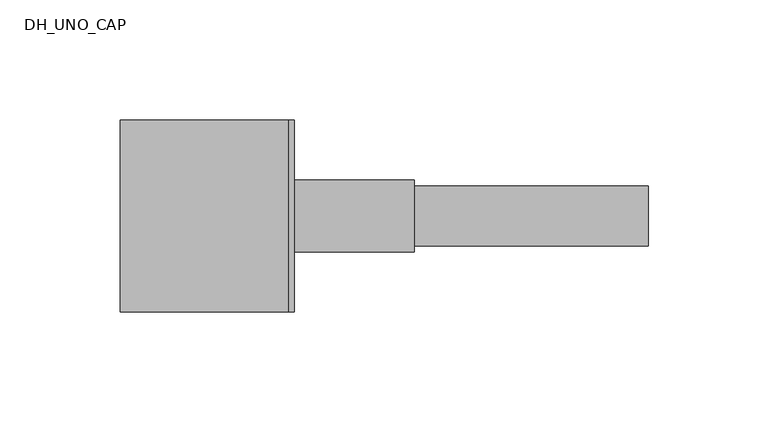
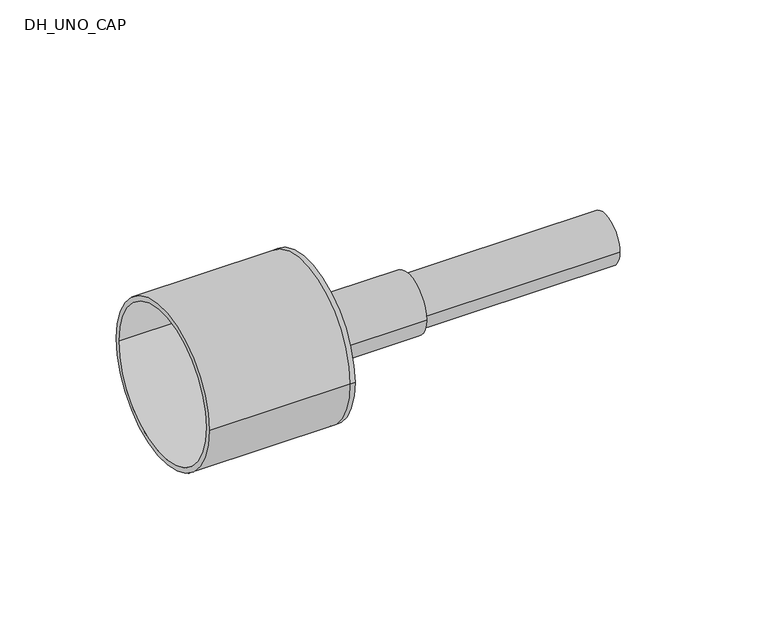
"""IFC4 building model written with IfcOpenShell, lengths in millimetres: pipe fitting geometry, DH_UNO_CAP : INSULPEX UNO 7.4 DW - Rubber Cap."""

import ifcopenshell
import ifcopenshell.guid

model = None  # the IFC model being written
_history = None  # IfcOwnerHistory: only IFC2X3 demands one
_inside = {}  # id of a spatial element -> (the spatial element, [elements in it])
_under = {}  # id of a project, library or spatial element -> (it, [spatial elements below it])
_declared = {}  # id of a project -> (the project, [libraries it declares])
_typed = {}  # id of a type object -> (the type object, [elements of that type])
_made_of = {}  # id of a material, layer set ... -> (it, [elements and type objects made of it])


def new_model(schema):
    """Start an empty IFC model of exactly this schema.

    Asked for "IFC4X3", IfcOpenShell would pick the latest addendum, in which some entities
    have other attributes; the version numbers below select the first issue.
    IFC2X3 requires an IfcOwnerHistory on every rooted entity: one is made here for all.
    """
    global model, _history
    if schema == "IFC4X3":
        model = ifcopenshell.file(schema_version=(4, 3, 0, 0))
    else:
        model = ifcopenshell.file(schema=schema)
    _inside.clear()
    _under.clear()
    _declared.clear()
    _typed.clear()
    _made_of.clear()
    _history = None
    if model.schema == "IFC2X3":
        org = make("IfcOrganization", Name="unknown")
        user = make(
            "IfcPersonAndOrganization",
            ThePerson=make("IfcPerson", FamilyName="unknown"),
            TheOrganization=org,
        )
        app = make(
            "IfcApplication",
            ApplicationDeveloper=org,
            Version="unknown",
            ApplicationFullName="unknown",
            ApplicationIdentifier="unknown",
        )
        _history = make(
            "IfcOwnerHistory",
            OwningUser=user,
            OwningApplication=app,
            ChangeAction="ADDED",
            CreationDate=0,
        )
    return model


def make(cls, **values):
    """One entity of the class cls with the attributes given. An attribute that is None is left unset."""
    return model.create_entity(
        cls, **{name: value for name, value in values.items() if value is not None}
    )


def rooted(cls, **values):
    """An entity with a GlobalId (a new one), such as an element, a storey or a relation."""
    return make(cls, GlobalId=ifcopenshell.guid.new(), OwnerHistory=_history, **values)


def si_unit(unit_type, name, prefix=None):
    """IfcSIUnit, for example si_unit("LENGTHUNIT", "METRE", prefix="MILLI")."""
    return make("IfcSIUnit", UnitType=unit_type, Prefix=prefix, Name=name)


def assignment(units):
    """IfcUnitAssignment: the units of a project."""
    return None if units is None else make("IfcUnitAssignment", Units=units)


def point(xyz):
    """IfcCartesianPoint."""
    return None if xyz is None else make("IfcCartesianPoint", Coordinates=xyz)


def direction(xyz):
    """IfcDirection."""
    return None if xyz is None else make("IfcDirection", DirectionRatios=xyz)


def frame(location, z_axis=None, x_axis=None):
    """IfcAxis2Placement3D, a coordinate frame: its origin and axes. An axis left out is left unset."""
    return make(
        "IfcAxis2Placement3D",
        Location=point(location),
        Axis=direction(z_axis),
        RefDirection=direction(x_axis),
    )


def frame_2d(location, x_axis=None):
    """IfcAxis2Placement2D, a coordinate frame in the plane: its origin and x axis."""
    return make(
        "IfcAxis2Placement2D", Location=point(location), RefDirection=direction(x_axis)
    )


def origin():
    """The frame at (0, 0, 0) with its axes left unset."""
    return frame((0.0, 0.0, 0.0))


def origin_2d():
    """The frame at (0, 0) in the plane with its x axis left unset."""
    return frame_2d((0.0, 0.0))


def place(relative_to, where):
    """IfcLocalPlacement: puts the frame where relative to a parent placement (None: the world)."""
    return make(
        "IfcLocalPlacement", PlacementRelTo=relative_to, RelativePlacement=where
    )


def context(
    kind, dimensions, precision=None, world=None, true_north=None, identifier=None
):
    """IfcGeometricRepresentationContext, for example the 3D "Model" context."""
    return make(
        "IfcGeometricRepresentationContext",
        ContextIdentifier=identifier,
        ContextType=kind,
        CoordinateSpaceDimension=dimensions,
        Precision=precision,
        WorldCoordinateSystem=world,
        TrueNorth=true_north,
    )


def project(units=None, contexts=None):
    """IfcProject with its units and contexts."""
    return rooted(
        "IfcProject",
        Name="project",
        RepresentationContexts=contexts,
        UnitsInContext=assignment(units),
    )


def spatial(cls, under=None, at=None, **own):
    """A site, building, storey or space (cls), placed at a placement, below another one or the project."""
    s = rooted(cls, ObjectPlacement=at, **own)
    if under is not None:
        _under.setdefault(under.id(), (under, []))[1].append(s)
    return s


def polyline(points):
    """IfcPolyline through the points."""
    return make("IfcPolyline", Points=[point(p) for p in points])


def circle_curve(where, radius):
    """IfcCircle in the frame where."""
    return make("IfcCircle", Position=where, Radius=radius)


def trimmed(basis, trim1, trim2, sense, master):
    """IfcTrimmedCurve: the piece of a basis curve between two trims."""
    return make(
        "IfcTrimmedCurve",
        BasisCurve=basis,
        Trim1=trim1,
        Trim2=trim2,
        SenseAgreement=sense,
        MasterRepresentation=master,
    )


def segment(curve, same_sense, transition):
    """IfcCompositeCurveSegment."""
    return make(
        "IfcCompositeCurveSegment",
        Transition=transition,
        SameSense=same_sense,
        ParentCurve=curve,
    )


def composite_curve(segments, self_intersect=None):
    """IfcCompositeCurve: segments joined end to end."""
    return make("IfcCompositeCurve", Segments=segments, SelfIntersect=self_intersect)


def outline(outer, holes=None, kind="AREA"):
    """IfcArbitraryClosedProfileDef: a profile drawn as a closed curve; with holes, ...WithVoids."""
    if holes is None:
        return make("IfcArbitraryClosedProfileDef", ProfileType=kind, OuterCurve=outer)
    return make(
        "IfcArbitraryProfileDefWithVoids",
        ProfileType=kind,
        OuterCurve=outer,
        InnerCurves=holes,
    )


def extrude(swept, where, along, depth):
    """IfcExtrudedAreaSolid: the profile swept, set in the frame where, extruded along a direction by depth."""
    return make(
        "IfcExtrudedAreaSolid",
        SweptArea=swept,
        Position=where,
        ExtrudedDirection=direction(along),
        Depth=depth,
    )


def shape(context_of_items, identifier, shape_type, items):
    """IfcShapeRepresentation: the items that make up one representation, for example the "Body"."""
    return make(
        "IfcShapeRepresentation",
        ContextOfItems=context_of_items,
        RepresentationIdentifier=identifier,
        RepresentationType=shape_type,
        Items=items,
    )


def source(mapping_origin, context_of_items, identifier, shape_type, items):
    """IfcRepresentationMap: a shape defined once, which mapped items show again and again."""
    return make(
        "IfcRepresentationMap",
        MappingOrigin=mapping_origin,
        MappedRepresentation=shape(context_of_items, identifier, shape_type, items),
    )


def transform(
    local_origin,
    x_axis=None,
    y_axis=None,
    z_axis=None,
    scale=None,
    scale2=None,
    scale3=None,
    uniform=True,
):
    """IfcCartesianTransformationOperator3D, or its non-uniform kind. x_axis, y_axis, z_axis: its Axis1, 2, 3."""
    if uniform:
        return make(
            "IfcCartesianTransformationOperator3D",
            Axis1=direction(x_axis),
            Axis2=direction(y_axis),
            LocalOrigin=point(local_origin),
            Scale=scale,
            Axis3=direction(z_axis),
        )
    return make(
        "IfcCartesianTransformationOperator3DnonUniform",
        Axis1=direction(x_axis),
        Axis2=direction(y_axis),
        LocalOrigin=point(local_origin),
        Scale=scale,
        Axis3=direction(z_axis),
        Scale2=scale2,
        Scale3=scale3,
    )


def mapped(mapping_source, mapping_target):
    """IfcMappedItem: shows the shape of a source again, moved by a transform."""
    return make(
        "IfcMappedItem", MappingSource=mapping_source, MappingTarget=mapping_target
    )


def made_of(thing, what):
    """Note that an element or type object is made of a material, layer set ...; save() writes the relation."""
    if what is not None:
        _made_of.setdefault(what.id(), (what, []))[1].append(thing)
    return thing


def element(
    cls,
    number,
    at=None,
    inside=None,
    cuts=None,
    type_object=None,
    material=None,
    context=None,
    identifier="Body",
    shape_type=None,
    held_by="IfcProductDefinitionShape",
    body=None,
    shapes=None,
    **own,
):
    """One element of the class cls, such as IfcWall. Its Tag is "e" and its number.

    at: its placement. inside: the storey or other place that contains it. cuts: it is an
    opening in that element (IfcRelVoidsElement). A single representation is given by context,
    identifier, shape_type and body (its items); several are given by shapes. held_by: the class
    of the entity that holds the representations. save() writes the other relations.
    """
    e = rooted(cls, Tag="e%d" % number, ObjectPlacement=at, **own)
    if body is not None:
        shapes = [shape(context, identifier, shape_type, body)]
    if shapes is not None:
        e.Representation = make(held_by, Representations=shapes)
    if inside is not None:
        _inside.setdefault(inside.id(), (inside, []))[1].append(e)
    if cuts is not None:
        rooted(
            "IfcRelVoidsElement", RelatingBuildingElement=cuts, RelatedOpeningElement=e
        )
    if type_object is not None:
        _typed.setdefault(type_object.id(), (type_object, []))[1].append(e)
    return made_of(e, material)


def aggregate(whole, parts):
    """IfcRelAggregates: a whole, such as a stair, and the parts it consists of."""
    return rooted("IfcRelAggregates", RelatingObject=whole, RelatedObjects=parts)


def save(model, path):
    """Write the relations noted so far, then the file.

    IfcRelAggregates (storeys below a building ...), IfcRelContainedInSpatialStructure (elements
    in a storey), IfcRelDefinesByType, IfcRelAssociatesMaterial and IfcRelDeclares: one each for
    every whole, place, type object, material and project.
    """
    for whole, parts in _under.values():
        aggregate(whole, parts)
    for where, things in _inside.values():
        rooted(
            "IfcRelContainedInSpatialStructure",
            RelatedElements=things,
            RelatingStructure=where,
        )
    for kind, things in _typed.values():
        rooted("IfcRelDefinesByType", RelatedObjects=things, RelatingType=kind)
    for what, things in _made_of.values():
        rooted("IfcRelAssociatesMaterial", RelatedObjects=things, RelatingMaterial=what)
    for by, libraries in _declared.values():
        rooted("IfcRelDeclares", RelatingContext=by, RelatedDefinitions=libraries)
    model.write(path)


def plane_surface(at):
    """IfcPlane: the flat surface through the origin of the frame at, square to its z axis."""
    return make("IfcPlane", Position=at)


def cylinder_surface(at, radius):
    """IfcCylindricalSurface: all points at the distance radius from the z axis of the frame at."""
    return make("IfcCylindricalSurface", Position=at, Radius=radius)


def revolved_surface(curve, axis_point, axis_direction):
    """IfcSurfaceOfRevolution: the curve turned about the line through axis_point along axis_direction."""
    return make(
        "IfcSurfaceOfRevolution",
        SweptCurve=make("IfcArbitraryOpenProfileDef", ProfileType="CURVE", Curve=curve),
        AxisPosition=make("IfcAxis1Placement", Location=point(axis_point), Axis=direction(axis_direction)),
    )


def advanced_brep(points, edges, surfaces, faces):
    """IfcAdvancedBrep: a solid bounded by faces that lie on surfaces and meet in shared edges.

    An edge is (start, end): straight between two places in points (the first is 0);
    or (start, end, curve); or (start, end, curve, False) where it runs against its curve.
    A face is (place in surfaces, loops), or (place, loops, False) where it looks against
    its surface's normal. A loop lists edges by number (the first is 1), with a minus sign
    where the edge is run from its end to its start. The first loop is the outer one.
    """
    corners = [point(p) for p in points]
    vertices = [make("IfcVertexPoint", VertexGeometry=c) for c in corners]
    made = []
    for start, end, *more in edges:
        made.append(
            make(
                "IfcEdgeCurve",
                EdgeStart=vertices[start],
                EdgeEnd=vertices[end],
                EdgeGeometry=more[0] if more else make("IfcPolyline", Points=[corners[start], corners[end]]),
                SameSense=more[1] if len(more) > 1 else True,
            )
        )
    hull = []
    for where, loops, *sense in faces:
        bounds = []
        for j, loop in enumerate(loops):
            ring = [make("IfcOrientedEdge", EdgeElement=made[abs(k) - 1], Orientation=k > 0) for k in loop]
            bounds.append(
                make(
                    "IfcFaceOuterBound" if j == 0 else "IfcFaceBound",
                    Bound=make("IfcEdgeLoop", EdgeList=ring),
                    Orientation=True,
                )
            )
        hull.append(make("IfcAdvancedFace", Bounds=bounds, FaceSurface=surfaces[where], SameSense=sense[0] if sense else True))
    return make("IfcAdvancedBrep", Outer=make("IfcClosedShell", CfsFaces=hull))


def dh_uno_cap_9762717f(model_context):
    return source(origin(), model_context, "Body", "SolidModel", [
        extrude(outline(composite_curve([segment(trimmed(circle_curve(origin_2d(), 12.5), [point((-12.5, 0.0))], [point((12.5, 0.0))], False, "CARTESIAN"), True, "CONTINUOUS"), segment(trimmed(circle_curve(origin_2d(), 12.5), [point((12.5, 0.0))], [point((-12.5, 0.0))], False, "CARTESIAN"), True, "CONTINUOUS")], self_intersect=False), holes=[composite_curve([segment(trimmed(circle_curve(origin_2d(), 9.0), [point((-9.0, 0.0))], [point((9.0, 0.0))], True, "CARTESIAN"), True, "CONTINUOUS"), segment(trimmed(circle_curve(origin_2d(), 9.0), [point((9.0, 0.0))], [point((-9.0, 0.0))], True, "CARTESIAN"), True, "CONTINUOUS")], self_intersect=False)]), frame((0.0, 0.0, 0.0), z_axis=(1.0, 0.0, 0.0), x_axis=(0.0, 1.0, 0.0)), (0.0, 0.0, 1.0), 150.0),
        advanced_brep(
        [(-70.0, -40.0, 0.0), (-70.0, 40.0, 0.0), (-70.0, -37.5, 0.0), (-70.0, 37.5, 0.0), (0.0, -37.5, 0.0), (0.0, 37.5, 0.0), (0.0, -40.0, 0.0), (0.0, 40.0, 0.0), (0.0, 12.5, 0.0), (0.0, -12.5, 0.0), (2.5, -40.0, 0.0), (2.5, 40.0, 0.0), (2.5, -12.5, 0.0), (2.5, 12.5, 0.0)],
        [
            (0, 1, circle_curve(frame((-70.0, 0.0, 0.0), z_axis=(-1.0, 0.0, 0.0), x_axis=(0.0, 1.0, 0.0)), 40.0)),
            (1, 0, circle_curve(frame((-70.0, 0.0, 0.0), z_axis=(-1.0, 0.0, 0.0), x_axis=(0.0, 1.0, 0.0)), 40.0)),
            (2, 3, circle_curve(frame((-70.0, 0.0, 0.0), z_axis=(1.0, 0.0, 0.0), x_axis=(0.0, 1.0, 0.0)), 37.5)),
            (3, 2, circle_curve(frame((-70.0, 0.0, 0.0), z_axis=(1.0, 0.0, 0.0), x_axis=(0.0, 1.0, 0.0)), 37.5)),
            (2, 4),
            (4, 5, circle_curve(frame((0.0, 0.0, 0.0), z_axis=(1.0, 0.0, 0.0), x_axis=(0.0, 1.0, 0.0)), 37.5)),
            (5, 3),
            (5, 4, circle_curve(frame((0.0, 0.0, 0.0), z_axis=(1.0, 0.0, 0.0), x_axis=(0.0, 1.0, 0.0)), 37.5)),
            (0, 6),
            (6, 7, circle_curve(frame((0.0, 0.0, 0.0), z_axis=(-1.0, 0.0, 0.0), x_axis=(0.0, 1.0, 0.0)), 40.0)),
            (7, 1),
            (7, 6, circle_curve(frame((0.0, 0.0, 0.0), z_axis=(-1.0, 0.0, 0.0), x_axis=(0.0, 1.0, 0.0)), 40.0)),
            (8, 9, circle_curve(frame((0.0, 0.0, 0.0), z_axis=(1.0, 0.0, 0.0), x_axis=(0.0, 1.0, 0.0)), 12.5)),
            (9, 8, circle_curve(frame((0.0, 0.0, 0.0), z_axis=(1.0, 0.0, 0.0), x_axis=(0.0, 1.0, 0.0)), 12.5)),
            (10, 11, circle_curve(frame((2.5, 0.0, 0.0), z_axis=(1.0, 0.0, 0.0), x_axis=(0.0, 1.0, 0.0)), 40.0)),
            (11, 10, circle_curve(frame((2.5, 0.0, 0.0), z_axis=(1.0, 0.0, 0.0), x_axis=(0.0, 1.0, 0.0)), 40.0)),
            (12, 13, circle_curve(frame((2.5, 0.0, 0.0), z_axis=(-1.0, 0.0, 0.0), x_axis=(0.0, 1.0, 0.0)), 12.5)),
            (13, 12, circle_curve(frame((2.5, 0.0, 0.0), z_axis=(-1.0, 0.0, 0.0), x_axis=(0.0, 1.0, 0.0)), 12.5)),
            (11, 7),
            (6, 10),
            (8, 13),
            (12, 9),
        ],
        [
            plane_surface(frame((-70.0, 0.0, 0.0), z_axis=(-1.0, 0.0, 0.0), x_axis=(0.0, 0.0, 1.0))),
            revolved_surface(polyline([(0.0, 37.5, 0.0), (-70.0, 37.5, 0.0)]), (-70.0, 0.0, 0.0), (1.0, 0.0, 0.0)),
            cylinder_surface(frame((-70.0, 0.0, 0.0), z_axis=(-1.0, 0.0, 0.0), x_axis=(0.0, 1.0, 0.0)), 40.0),
            plane_surface(frame((0.0, 0.0, 0.0), z_axis=(-1.0, 0.0, 0.0), x_axis=(0.0, 0.0, 1.0))),
            plane_surface(frame((2.5, 0.0, 0.0), z_axis=(1.0, 0.0, 0.0), x_axis=(0.0, 0.0, 1.0))),
            cylinder_surface(frame((0.0, 0.0, 0.0), z_axis=(-1.0, 0.0, 0.0), x_axis=(0.0, 1.0, 0.0)), 40.0),
            revolved_surface(polyline([(0.0, 12.5, 0.0), (2.5, 12.5, 0.0)]), (0.0, 0.0, 0.0), (-1.0, 0.0, 0.0)),
        ],
        [
            (0, [[1, 2], [3, 4]]),
            (1, [[-3, 5, 6, 7]]),
            (1, [[-4, -7, 8, -5]]),
            (2, [[-1, 9, 10, 11]]),
            (2, [[-2, -11, 12, -9]]),
            (3, [[-6, -8], [13, 14]]),
            (4, [[15, 16], [17, 18]]),
            (5, [[-16, 19, -10, 20]]),
            (5, [[-15, -20, -12, -19]]),
            (6, [[21, -17, 22, -13]]),
            (6, [[-21, -14, -22, -18]]),
        ],
    ),
        extrude(outline(composite_curve([segment(trimmed(circle_curve(origin_2d(), 15.0), [point((-15.0, 0.0))], [point((15.0, 0.0))], False, "CARTESIAN"), True, "CONTINUOUS"), segment(trimmed(circle_curve(origin_2d(), 15.0), [point((15.0, 0.0))], [point((-15.0, 0.0))], False, "CARTESIAN"), True, "CONTINUOUS")], self_intersect=False), holes=[composite_curve([segment(trimmed(circle_curve(origin_2d(), 12.5), [point((-12.5, 0.0))], [point((12.5, 0.0))], True, "CARTESIAN"), True, "CONTINUOUS"), segment(trimmed(circle_curve(origin_2d(), 12.5), [point((12.5, 0.0))], [point((-12.5, 0.0))], True, "CARTESIAN"), True, "CONTINUOUS")], self_intersect=False)]), frame((2.5, 0.0, 0.0), z_axis=(1.0, 0.0, 0.0), x_axis=(0.0, 1.0, 0.0)), (0.0, 0.0, 1.0), 50.0),
    ])


if __name__ == "__main__":
    model = new_model("IFC4")
    model_context = context("Model", 3, world=origin())
    ifc_project = project(units=[si_unit("LENGTHUNIT", "METRE", prefix="MILLI")], contexts=[model_context])
    site = spatial("IfcSite", under=ifc_project)
    building = spatial("IfcBuilding", under=site)
    placement = place(None, origin())
    dh_uno_cap_shape = dh_uno_cap_9762717f(model_context)
    element("IfcPipeFitting", 1, ObjectType="DH_UNO_CAP : INSULPEX UNO 7.4 DW - Rubber Cap", at=placement, inside=building, context=model_context, shape_type="MappedRepresentation", body=[
        mapped(dh_uno_cap_shape, transform((0.0, 0.0, 0.0), x_axis=(1.0, 0.0, 0.0), y_axis=(0.0, 1.0, 0.0), z_axis=(0.0, 0.0, 1.0))),
    ])
    save(model, "model.ifc")
